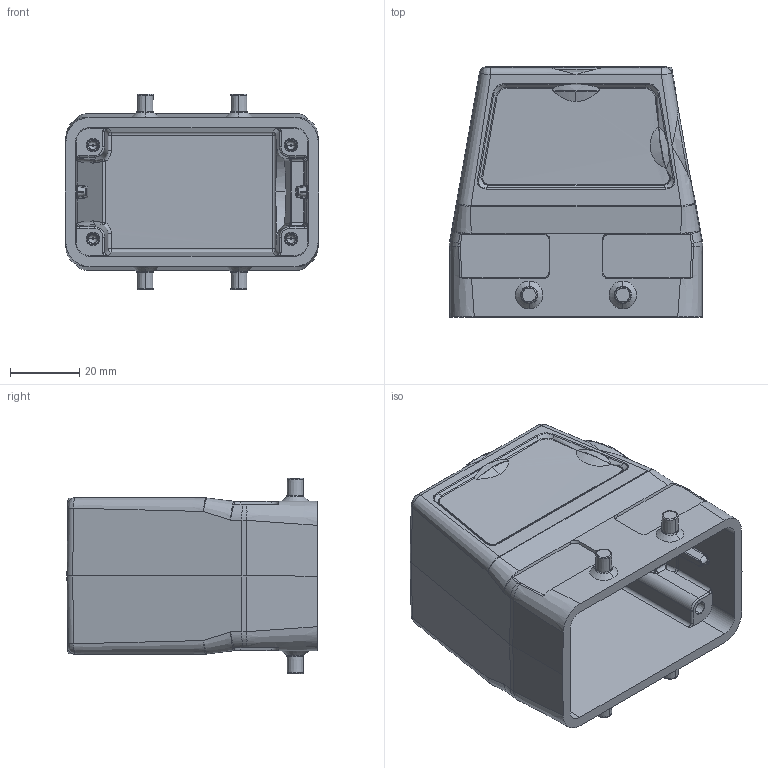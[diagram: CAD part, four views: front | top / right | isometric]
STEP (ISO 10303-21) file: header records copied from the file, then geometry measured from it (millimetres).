
FILE_DESCRIPTION (( 'STEP AP203' ), '1' );
FILE_NAME ('H10-TSH-M32.STEP', '2020-11-21T02:47:46', ( '' ), ( '' ), 'SwSTEP 2.0', 'SolidWorks 2016', '' );
FILE_SCHEMA (( 'CONFIG_CONTROL_DESIGN' ));
Length unit declared in the file: millimetre
Products named in the file (3): h10b_low_hoods; H10-TSH-M32; hb-010_hoods_high_construction
Assembly tree (2 placements, depth 2):
  H10-TSH-M32
    hb-010_hoods_high_construction
    h10b_low_hoods
Bounding box: 73 x 72 x 56.4 mm (x, y, z)
Volume: 546.6 mm3; surface area: 32844.2 mm2
Topology: 4 solids, 5 shells, 444 faces, 1083 edges, 656 vertices
Faces by surface type: bspline 150, cylinder 142, plane 93, cone 59
Entity records: 21070 total; most frequent: CARTESIAN_POINT 12017, ORIENTED_EDGE 2160, DIRECTION 1351, EDGE_CURVE 1083, VERTEX_POINT 656, AXIS2_PLACEMENT_3D 482, EDGE_LOOP 455, ADVANCED_FACE 444
